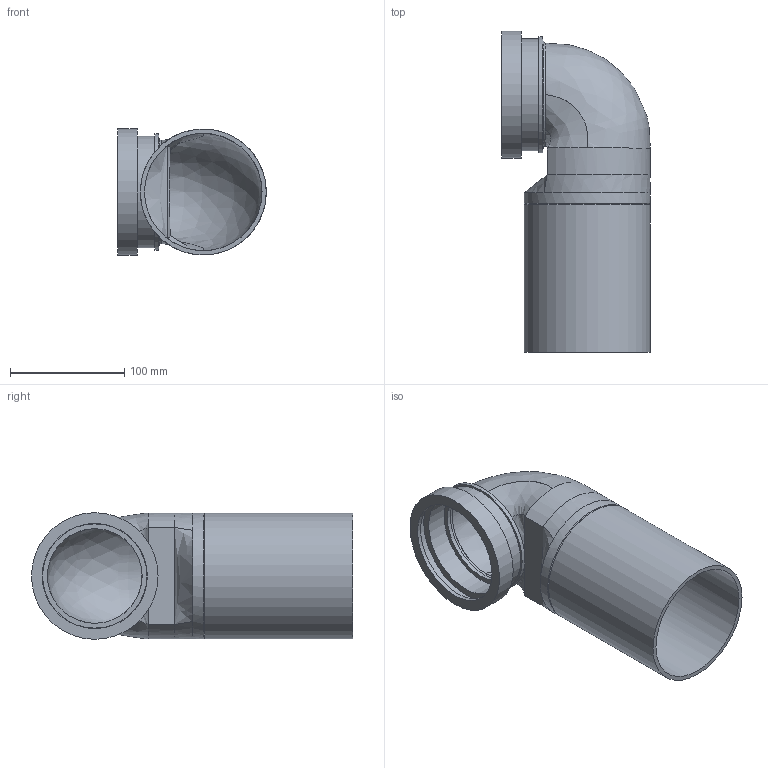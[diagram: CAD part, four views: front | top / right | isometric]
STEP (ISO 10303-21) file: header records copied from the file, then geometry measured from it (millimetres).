
FILE_DESCRIPTION(/* description */ (''),/* implementation_level */ '2;1');
FILE_NAME(/* name */ 'Z:\Geberit\Export\NewStep\367925.stp',/* time_stamp */ '2014-04-02T07:59:29+02:00',/* author */ ('Marco'),/* organization */ (''),/* preprocessor_version */ 'ST-DEVELOPER v15.2',/* originating_system */ 'Autodesk Inventor 2014',/* authorisation */ '');
FILE_SCHEMA (('AUTOMOTIVE_DESIGN { 1 0 10303 214 3 1 1 }'));
Length unit declared in the file: millimetre
Products named in the file (1): 367925
Bounding box: 130.2 x 281.5 x 111 mm (x, y, z)
Volume: 364093.8 mm3; surface area: 208512.9 mm2
Topology: 3 solids, 3 shells, 47 faces, 101 edges, 64 vertices
Faces by surface type: bspline 16, cylinder 14, plane 14, cone 2, torus 1
Full cylindrical faces by diameter (mm): 83.025 x2, 91.45 x1, 92.2 x1, 93.575 x1, 98.2 x1, 102 x1, 103.05 x1, 103.65 x1, 110.4 x2, 111 x1
Entity records: 2294 total; most frequent: CARTESIAN_POINT 1348, ORIENTED_EDGE 176, DIRECTION 146, EDGE_CURVE 84, EDGE_LOOP 72, AXIS2_PLACEMENT_3D 68, VERTEX_POINT 62, STYLED_ITEM 50
